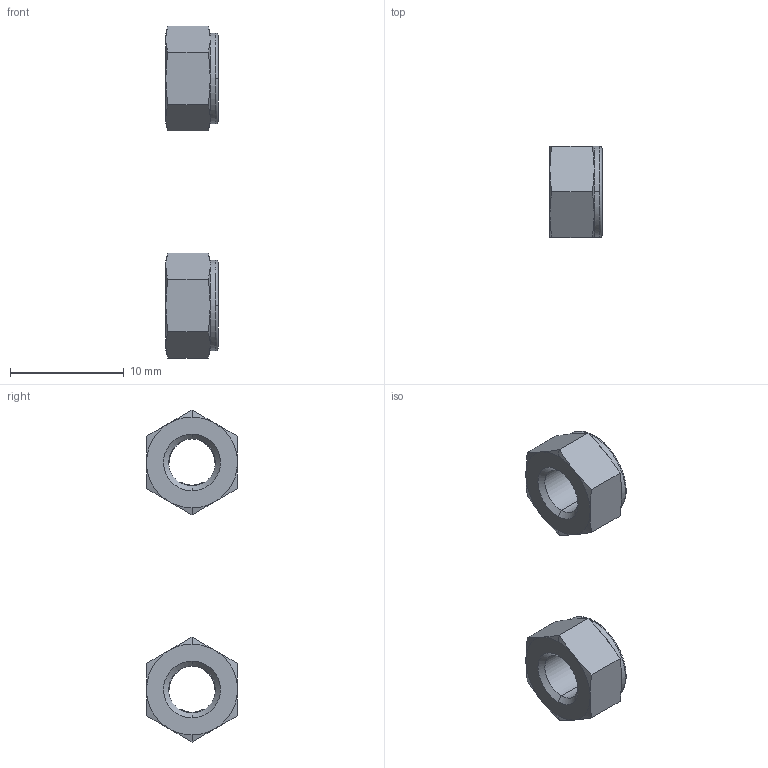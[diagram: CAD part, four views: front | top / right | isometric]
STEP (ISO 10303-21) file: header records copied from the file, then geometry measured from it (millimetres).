
FILE_DESCRIPTION(/* description */ (''),/* implementation_level */ '2;1');
FILE_NAME(/* name */ '6.y-drive#6.12#PACK-UNUT5',/* time_stamp */ '2014-12-01T20:16:45+01:00',/* author */ (''),/* organization */ (''),/* preprocessor_version */ 'ST-DEVELOPER v14',/* originating_system */ '',/* authorisation */ '');
FILE_SCHEMA (('AUTOMOTIVE_DESIGN'));
Length unit declared in the file: millimetre
Products named in the file (2): Document; nut DIN985-like, lock, M5
Assembly tree (2 placements, depth 2):
  Document
    nut DIN985-like, lock, M5  x2
Bounding box: 4.6 x 8 x 29.24 mm (x, y, z)
Volume: 352 mm3; surface area: 543.5 mm2
Topology: 2 solids, 2 shells, 108 faces, 260 edges, 156 vertices
Faces by surface type: bspline 62, plane 46
Entity records: 3582 total; most frequent: CARTESIAN_POINT 1915, ORIENTED_EDGE 260, PCURVE 260, DEFINITIONAL_REPRESENTATION 260, B_SPLINE_CURVE_WITH_KNOTS 249, SURFACE_CURVE 130, EDGE_CURVE 130, VERTEX_POINT 78
